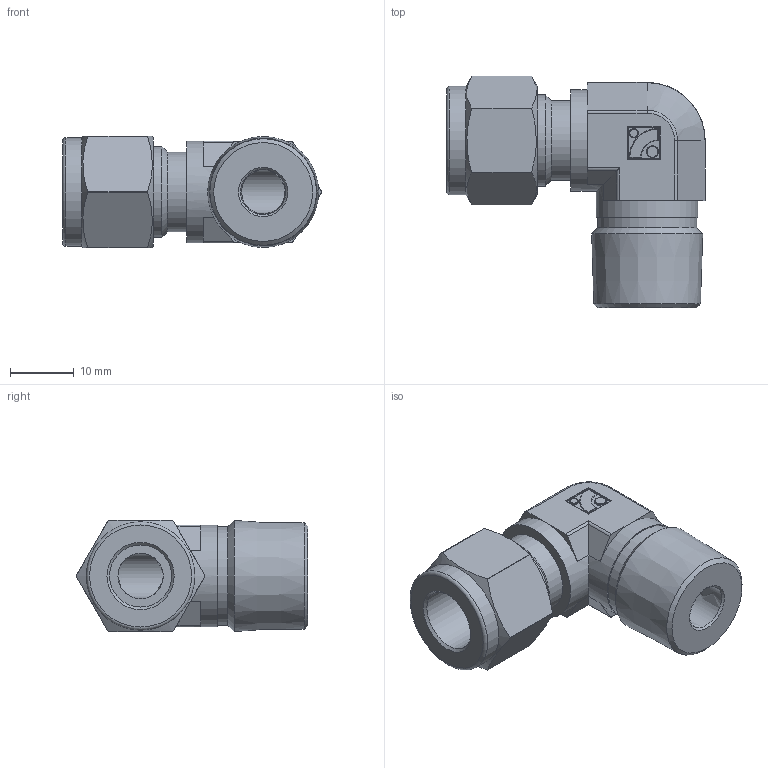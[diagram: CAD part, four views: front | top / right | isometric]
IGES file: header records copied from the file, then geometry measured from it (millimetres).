
Global section: file name: No Iges File Name specified; native system: Autodesk Inventor 2012; preprocessor: AutoDesk Inventor Iges Exporter R2012; author: 硅己绕,,1; organization: 1; date: 20150703.114103; units: millimetre
Bounding box: 40.52 x 36.28 x 17.5 mm (x, y, z)
Volume: 9568.1 mm3; surface area: 5055.4 mm2
Topology: 1 solids, 1 shells, 117 faces, 265 edges, 155 vertices
Faces by surface type: plane 42, cylinder 35, revolution 20, cone 8, torus 8, sphere 4
Full cylindrical faces by diameter (mm): 1.35 x1, 1.8 x1, 12.5 x1, 14.28 x1, 15.5 x1, 15.9 x2, 17 x1
